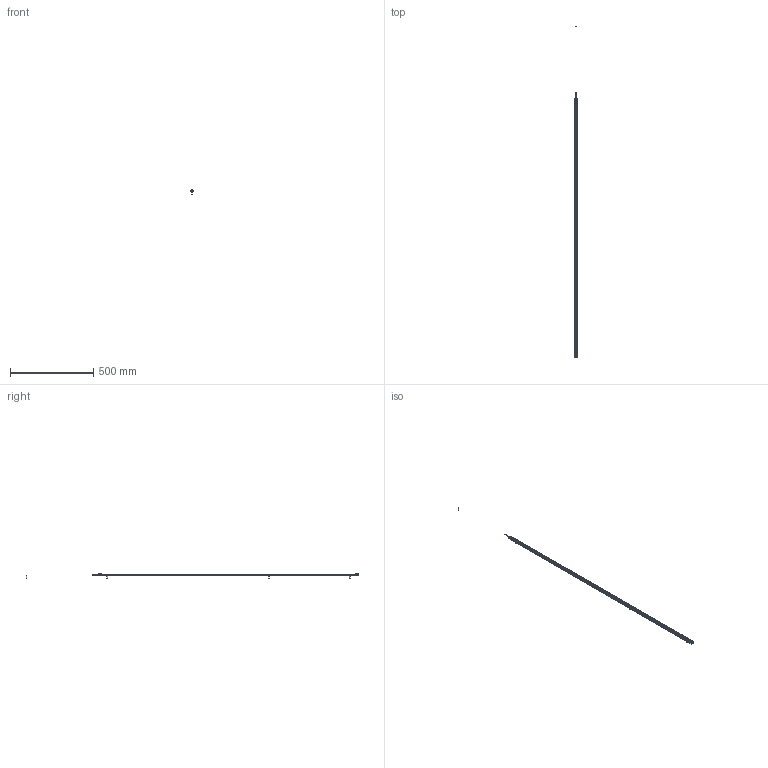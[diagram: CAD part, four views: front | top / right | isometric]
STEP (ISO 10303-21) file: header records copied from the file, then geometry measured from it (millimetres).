
FILE_DESCRIPTION (( 'STEP AP214' ), '1' );
FILE_NAME ('ILGA-B-K1-1560mm.STEP', '2026-04-24T22:50:39', ( '' ), ( '' ), 'SwSTEP 2.0', 'SolidWorks 2025', '' );
FILE_SCHEMA (( 'AUTOMOTIVE_DESIGN' ));
Length unit declared in the file: millimetre
Products named in the file (1): ILGA-B-K1-1560mm
Bounding box: 22.4 x 1999.48 x 25.7 mm (x, y, z)
Volume: 118045.7 mm3; surface area: 212121.2 mm2
Topology: 13 solids, 13 shells, 724 faces, 1856 edges, 1136 vertices
Faces by surface type: plane 314, cylinder 268, cone 60, torus 42, bspline 24, sphere 16
Entity records: 30221 total; most frequent: CARTESIAN_POINT 4617, DIRECTION 3820, ORIENTED_EDGE 3624, EDGE_CURVE 1812, AXIS2_PLACEMENT_3D 1427, VERTEX_POINT 1136, LINE 966, VECTOR 966
